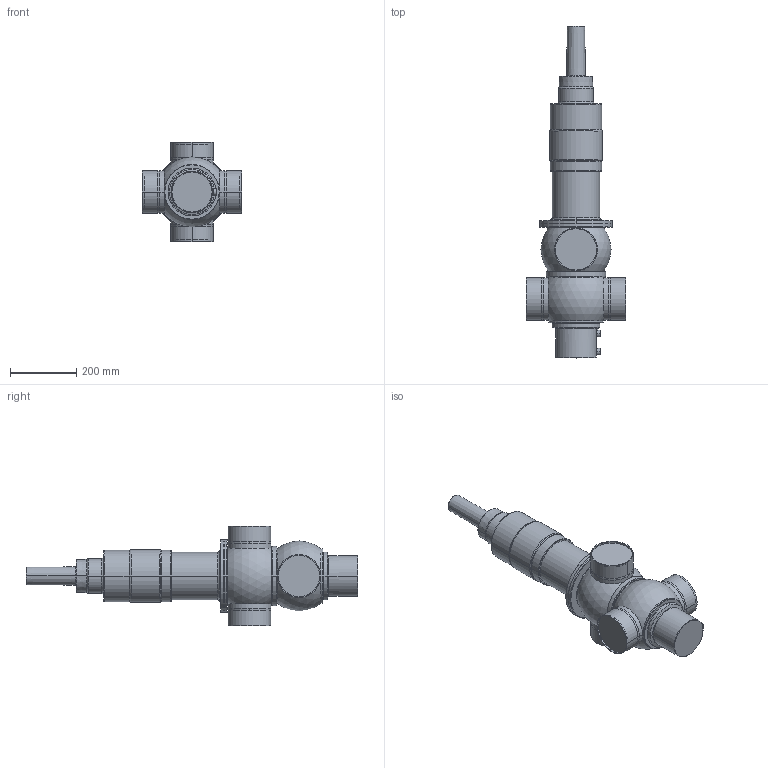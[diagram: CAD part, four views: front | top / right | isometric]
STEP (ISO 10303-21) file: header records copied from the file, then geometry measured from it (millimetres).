
FILE_DESCRIPTION(('Creo Elements/Direct Modeling STEP Export'),'2;1');
FILE_NAME('D44SL-125_prox.stp','2019-09-04T 9:54:21',(''),(''),'PTC Creo Elements/Direct Modeling STEP processor for AP214 (Solid Model)','PTC Creo Elements/Direct Modeling 19.0B 21-Mar-2015 (C) Parametric Technology GmbH','');
FILE_SCHEMA(('AUTOMOTIVE_DESIGN { 1 0 10303 214 1 1 1 1 }'));
Length unit declared in the file: millimetre
Products named in the file (5): housing_D44-125; D4_Prox._holder.; Actuator_D4-D4SL-150_Yoke; drain_pipe_114; D44SL-125_prox
Assembly tree (4 placements, depth 2):
  D44SL-125_prox
    drain_pipe_114
    Actuator_D4-D4SL-150_Yoke
    D4_Prox._holder.
    housing_D44-125
Bounding box: 300 x 1004.8 x 300 mm (x, y, z)
Volume: 20973963.7 mm3; surface area: 794063.8 mm2
Topology: 4 solids, 4 shells, 172 faces, 373 edges, 224 vertices
Faces by surface type: cylinder 63, torus 57, plane 29, cone 16, sphere 4, bspline 3
Entity records: 7538 total; most frequent: CARTESIAN_POINT 3815, DIRECTION 749, ORIENTED_EDGE 746, EDGE_CURVE 373, AXIS2_PLACEMENT_3D 334, VERTEX_POINT 224, EDGE_LOOP 187, FACE_OUTER_BOUND 172
